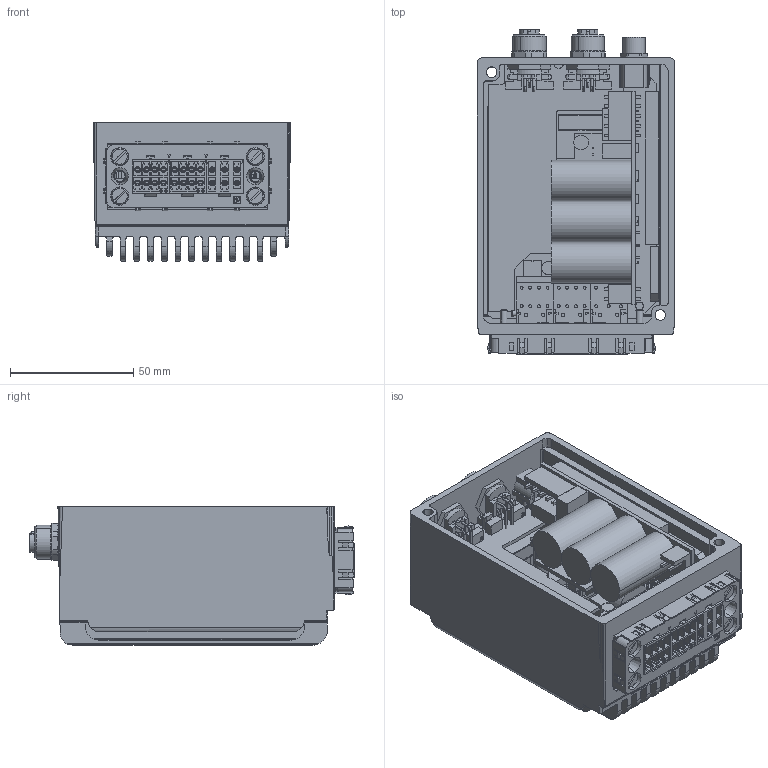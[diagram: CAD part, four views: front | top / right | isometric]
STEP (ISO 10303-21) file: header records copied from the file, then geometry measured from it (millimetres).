
FILE_DESCRIPTION(('STEP AP214'),'1');
FILE_NAME('M:/TSI/DIS-2-Zeichnungen/DIS2_310_2_FB.stp','2014-01-29T15:59:47',(''),(''),'Spatial InterOp 3D',' ',' ');
FILE_SCHEMA(('automotive_design'));
Length unit declared in the file: inch
Products named in the file (126): ACIS-VolumenkÃ¶rper_43; ACIS-VolumenkÃ¶rper_44; ACIS-VolumenkÃ¶rper_45; ACIS-VolumenkÃ¶rper_46; FlÃ¤chenseite_607; FlÃ¤chenseite_651; FlÃ¤chenseite_695; FlÃ¤chenseite_749; FlÃ¤chenseite_794; FlÃ¤chenseite_830; FlÃ¤chenseite_863; ACIS-VolumenkÃ¶rper_889; FlÃ¤chenseite_951; FlÃ¤chenseite_967; ACIS-VolumenkÃ¶rper_991; ACIS-VolumenkÃ¶rper_1009; ACIS-VolumenkÃ¶rper_1045; ACIS-VolumenkÃ¶rper_1049; ACIS-VolumenkÃ¶rper_1053; ACIS-VolumenkÃ¶rper_1059; ACIS-VolumenkÃ¶rper_1079; ACIS-VolumenkÃ¶rper_1126; ACIS-VolumenkÃ¶rper_2279; ACIS-VolumenkÃ¶rper_3285; ACIS-VolumenkÃ¶rper_4442; ACIS-VolumenkÃ¶rper_4576; ACIS-VolumenkÃ¶rper_4608; ACIS-VolumenkÃ¶rper_4622; ACIS-VolumenkÃ¶rper_4636; ACIS-VolumenkÃ¶rper_4650; ACIS-VolumenkÃ¶rper_4790; ACIS-VolumenkÃ¶rper_4834; ACIS-VolumenkÃ¶rper_4848; ACIS-VolumenkÃ¶rper_4862; ACIS-VolumenkÃ¶rper_4996; ACIS-VolumenkÃ¶rper_5022; ACIS-VolumenkÃ¶rper_5048; ACIS-VolumenkÃ¶rper_5074; ACIS-VolumenkÃ¶rper_5100; ACIS-VolumenkÃ¶rper_5126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
Bounding box: 79.99 x 131.35 x 56 mm (x, y, z)
Volume: 217342.1 mm3; surface area: 162694.7 mm2
Topology: 55 solids, 202 shells, 4078 faces, 11242 edges, 8084 vertices
Faces by surface type: plane 2676, cylinder 1066, cone 224, torus 78, bspline 34
Full cylindrical faces by diameter (mm): 1.1 x10, 8.2 x2, 10 x2
Entity records: 171345 total; most frequent: CARTESIAN_POINT 27136, DIRECTION 21895, ORIENTED_EDGE 21102, EDGE_CURVE 10863, LINE 8031, VECTOR 8031, VERTEX_POINT 7423, AXIS2_PLACEMENT_3D 6932
